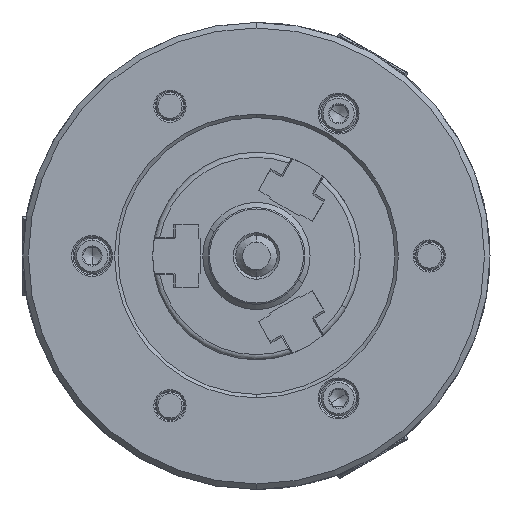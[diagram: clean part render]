
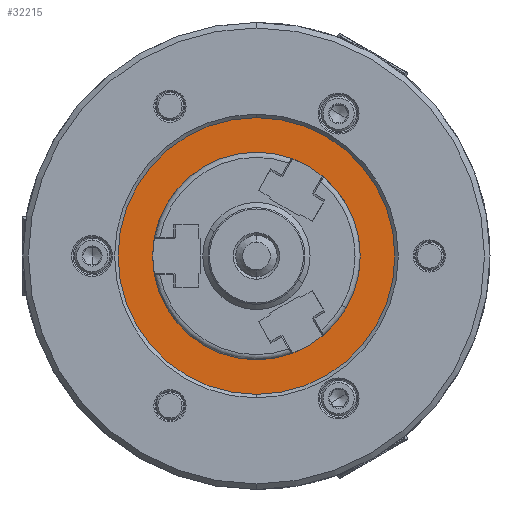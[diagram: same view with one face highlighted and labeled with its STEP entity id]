
A CAD part, left-side view. The second image highlights one B-rep face of the part: STEP entity #32215.
In plain terms, the highlighted planar face has unit normal (-1, 0, 0).
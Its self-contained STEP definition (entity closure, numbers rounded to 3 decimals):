
#7884 = ORIENTED_EDGE ( 'NONE', *, *, #51060, .F. ) ;
#8645 = AXIS2_PLACEMENT_3D ( 'NONE', #57378, #84540, #23531 ) ;
#9285 = ORIENTED_EDGE ( 'NONE', *, *, #33879, .T. ) ;
#9598 = PLANE ( 'NONE',  #11476 ) ;
#11476 = AXIS2_PLACEMENT_3D ( 'NONE', #30987, #23435, #36803 ) ;
#23435 = DIRECTION ( 'NONE',  ( 1., 0., 0. ) ) ;
#23531 = DIRECTION ( 'NONE',  ( 0., 0., -1. ) ) ;
#25249 = CARTESIAN_POINT ( 'NONE',  ( -48., 0., -40. ) ) ;
#30230 = AXIS2_PLACEMENT_3D ( 'NONE', #48197, #62447, #41980 ) ;
#30705 = DIRECTION ( 'NONE',  ( 0., 0., -1. ) ) ;
#30987 = CARTESIAN_POINT ( 'NONE',  ( -48., -40., 0. ) ) ;
#32215 = ADVANCED_FACE ( 'NONE', ( #38134, #38559 ), #9598, .F. ) ;
#33044 = AXIS2_PLACEMENT_3D ( 'NONE', #80959, #53399, #45811 ) ;
#33879 = EDGE_CURVE ( 'NONE', #77536, #63669, #78545, .T. ) ;
#36803 = DIRECTION ( 'NONE',  ( 0., 0., -1. ) ) ;
#36939 = EDGE_LOOP ( 'NONE', ( #7884, #46871 ) ) ;
#38134 = FACE_OUTER_BOUND ( 'NONE', #36939, .T. ) ;
#38559 = FACE_BOUND ( 'NONE', #59429, .T. ) ;
#41980 = DIRECTION ( 'NONE',  ( 0., 0., -1. ) ) ;
#44844 = CARTESIAN_POINT ( 'NONE',  ( -48., 0., 30. ) ) ;
#45811 = DIRECTION ( 'NONE',  ( 0., 0., -1. ) ) ;
#46871 = ORIENTED_EDGE ( 'NONE', *, *, #61093, .F. ) ;
#48197 = CARTESIAN_POINT ( 'NONE',  ( -48., 0., 0. ) ) ;
#51060 = EDGE_CURVE ( 'NONE', #58151, #69964, #75384, .T. ) ;
#52702 = AXIS2_PLACEMENT_3D ( 'NONE', #64575, #65014, #30705 ) ;
#52756 = EDGE_CURVE ( 'NONE', #63669, #77536, #69994, .T. ) ;
#53399 = DIRECTION ( 'NONE',  ( 1., 0., 0. ) ) ;
#57378 = CARTESIAN_POINT ( 'NONE',  ( -48., 0., 0. ) ) ;
#58151 = VERTEX_POINT ( 'NONE', #25249 ) ;
#59429 = EDGE_LOOP ( 'NONE', ( #9285, #74451 ) ) ;
#61093 = EDGE_CURVE ( 'NONE', #69964, #58151, #75558, .T. ) ;
#62447 = DIRECTION ( 'NONE',  ( 1., 0., 0. ) ) ;
#63669 = VERTEX_POINT ( 'NONE', #44844 ) ;
#64575 = CARTESIAN_POINT ( 'NONE',  ( -48., 0., 0. ) ) ;
#65014 = DIRECTION ( 'NONE',  ( 1., 0., 0. ) ) ;
#69066 = CARTESIAN_POINT ( 'NONE',  ( -48., 0., -30. ) ) ;
#69964 = VERTEX_POINT ( 'NONE', #80675 ) ;
#69994 = CIRCLE ( 'NONE', #33044, 30. ) ;
#74451 = ORIENTED_EDGE ( 'NONE', *, *, #52756, .T. ) ;
#75384 = CIRCLE ( 'NONE', #52702, 40. ) ;
#75558 = CIRCLE ( 'NONE', #8645, 40. ) ;
#77536 = VERTEX_POINT ( 'NONE', #69066 ) ;
#78545 = CIRCLE ( 'NONE', #30230, 30. ) ;
#80675 = CARTESIAN_POINT ( 'NONE',  ( -48., 0., 40. ) ) ;
#80959 = CARTESIAN_POINT ( 'NONE',  ( -48., 0., 0. ) ) ;
#84540 = DIRECTION ( 'NONE',  ( 1., 0., 0. ) ) ;
